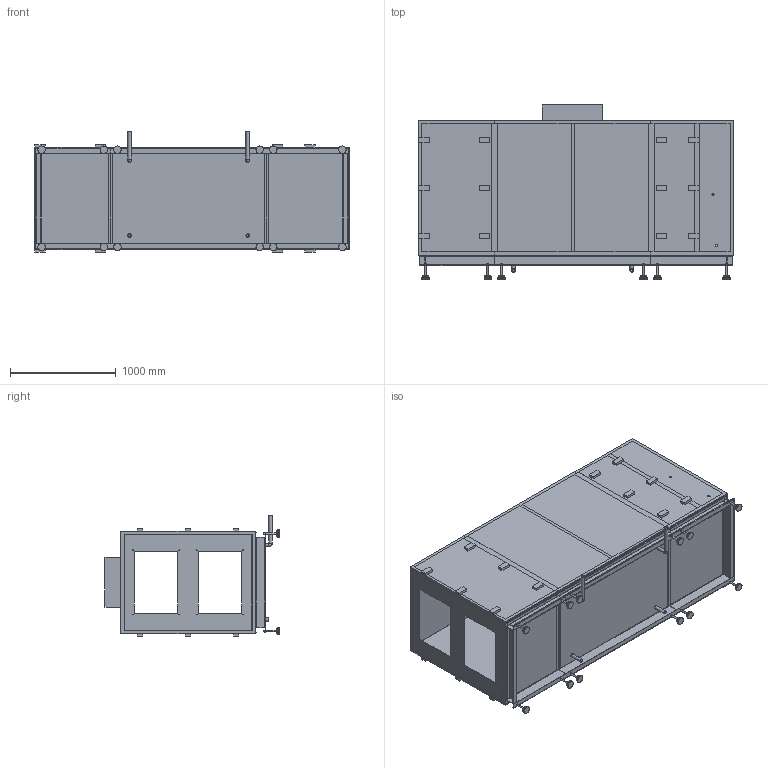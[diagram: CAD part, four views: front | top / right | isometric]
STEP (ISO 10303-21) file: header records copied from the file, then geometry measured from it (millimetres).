
FILE_DESCRIPTION(/* description */ (''),/* implementation_level */ '2;1');
FILE_NAME(/* name */ 'Z:\Output\AIR1_XH_3500-04338-001.stp',/* time_stamp */ '2020-10-09T14:40:56+02:00',/* author */ ('engineering2'),/* organization */ (''),/* preprocessor_version */ 'ST-DEVELOPER v17.2',/* originating_system */ 'Autodesk Inventor 2019',/* authorisation */ '');
FILE_SCHEMA (('AUTOMOTIVE_DESIGN { 1 0 10303 214 3 1 1 }'));
Length unit declared in the file: millimetre
Products named in the file (1): 04345-001_AIR1 RH 3000
Bounding box: 2970 x 1644 x 1137 mm (x, y, z)
Volume: 312162819.9 mm3; surface area: 32943398.5 mm2
Topology: 25 solids, 25 shells, 491 faces, 1178 edges, 789 vertices
Faces by surface type: plane 383, cylinder 68, torus 28, cone 12
Full cylindrical faces by diameter (mm): 6.647 x16, 16 x24, 20.96 x4, 27 x6, 32 x6, 70 x12
Entity records: 14357 total; most frequent: CARTESIAN_POINT 2459, DIRECTION 2450, ORIENTED_EDGE 2356, EDGE_CURVE 1178, LINE 890, VECTOR 890, VERTEX_POINT 789, AXIS2_PLACEMENT_3D 780
